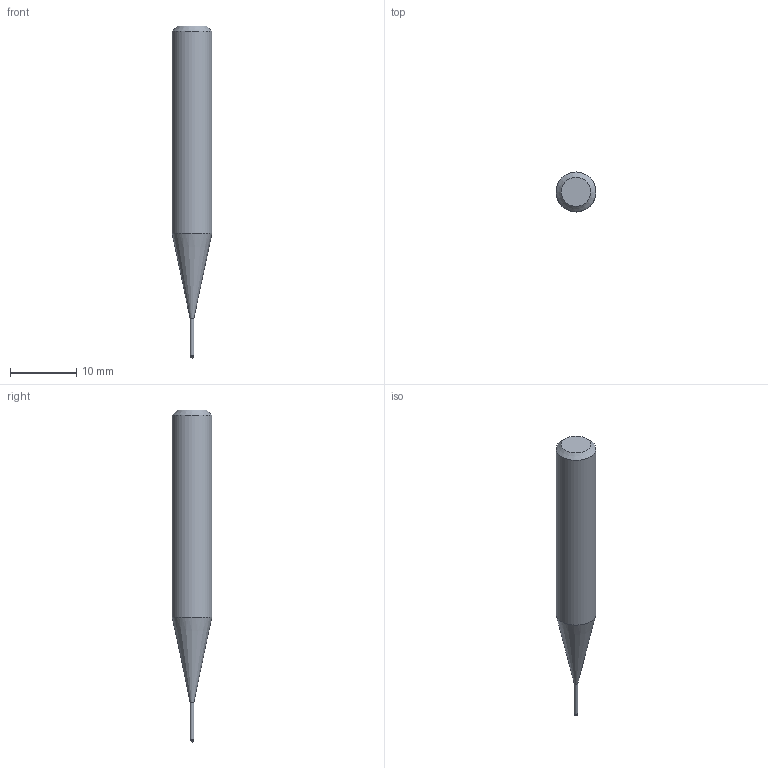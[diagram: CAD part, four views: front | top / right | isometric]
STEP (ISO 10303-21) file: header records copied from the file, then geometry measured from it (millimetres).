
FILE_DESCRIPTION((''),'2;1');
FILE_NAME('C:\Users\nsx150\AppData\Local\Temp\Mastercam 2021\3SYKECWX22\TEMP.step','2021-04-22T10:01:00',(''),(''),'STEP Write','Mastercam 2021 ... CNC Software, Inc.','');
FILE_SCHEMA(('AUTOMOTIVE_DESIGN'));
Length unit declared in the file: millimetre
Products named in the file (1): None
Bounding box: 6 x 6 x 50 mm (x, y, z)
Volume: 1011.1 mm3; surface area: 752.7 mm2
Topology: 2 solids, 2 shells, 9 faces, 14 edges, 8 vertices
Faces by surface type: plane 3, cylinder 3, cone 2, sphere 1
Full cylindrical faces by diameter (mm): 0.56 x1, 0.6 x1, 6 x1
Entity records: 211 total; most frequent: DIRECTION 36, CARTESIAN_POINT 25, AXIS2_PLACEMENT_3D 18, ORIENTED_EDGE 14, EDGE_LOOP 14, STYLED_ITEM 12, ADVANCED_FACE 9, FACE_BOUND 8
